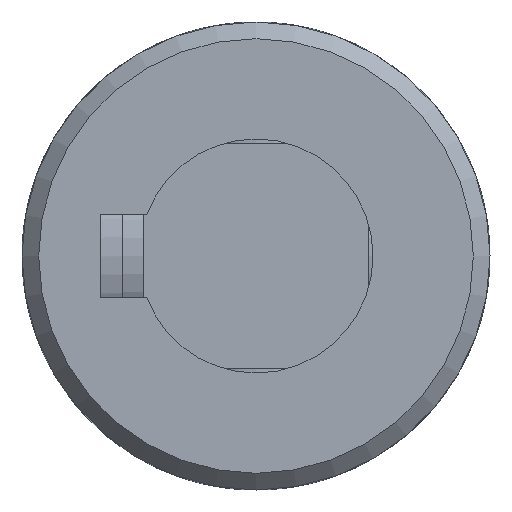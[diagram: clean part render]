
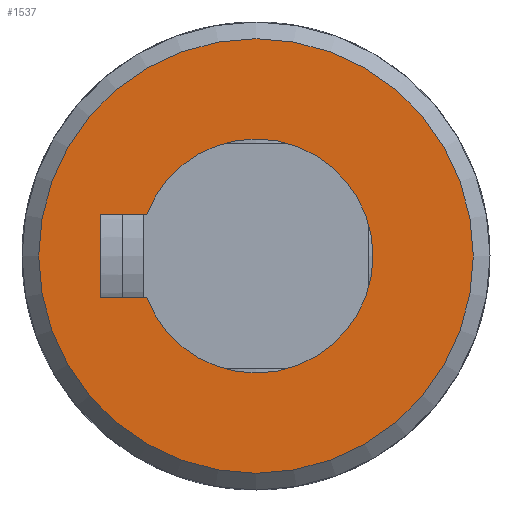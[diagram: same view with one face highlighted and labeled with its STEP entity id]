
A CAD part, front view. The second image highlights one B-rep face of the part: STEP entity #1537.
In plain terms, the highlighted planar face has unit normal (0, -1, 0).
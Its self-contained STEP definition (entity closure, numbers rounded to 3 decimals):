
#110=LINE('',#2955,#167);
#115=LINE('',#2972,#172);
#116=LINE('',#2985,#173);
#167=VECTOR('',#2019,2.762);
#172=VECTOR('',#2030,2.762);
#173=VECTOR('',#2033,5.);
#304=PLANE('',#1694);
#352=FACE_BOUND('',#565,.T.);
#432=FACE_OUTER_BOUND('',#564,.T.);
#564=EDGE_LOOP('',(#1340));
#565=EDGE_LOOP('',(#1341,#1342,#1343,#1344));
#645=CIRCLE('',#1682,7.);
#650=CIRCLE('',#1692,13.);
#772=VERTEX_POINT('',#2944);
#773=VERTEX_POINT('',#2946);
#775=VERTEX_POINT('',#2954);
#781=VERTEX_POINT('',#2970);
#783=VERTEX_POINT('',#2991);
#960=EDGE_CURVE('',#773,#772,#645,.T.);
#963=EDGE_CURVE('',#775,#773,#110,.T.);
#971=EDGE_CURVE('',#772,#781,#115,.T.);
#973=EDGE_CURVE('',#781,#775,#116,.T.);
#976=EDGE_CURVE('',#783,#783,#650,.T.);
#1340=ORIENTED_EDGE('',*,*,#976,.F.);
#1341=ORIENTED_EDGE('',*,*,#971,.T.);
#1342=ORIENTED_EDGE('',*,*,#973,.T.);
#1343=ORIENTED_EDGE('',*,*,#963,.T.);
#1344=ORIENTED_EDGE('',*,*,#960,.T.);
#1537=ADVANCED_FACE('',(#432,#352),#304,.F.);
#1682=AXIS2_PLACEMENT_3D('',#2947,#2014,#2015);
#1692=AXIS2_PLACEMENT_3D('',#2992,#2042,#2043);
#1694=AXIS2_PLACEMENT_3D('',#3168,#2050,#2051);
#2014=DIRECTION('center_axis',(0.,1.,0.));
#2015=DIRECTION('ref_axis',(-0.357,0.,0.934));
#2019=DIRECTION('',(0.,0.,1.));
#2030=DIRECTION('',(0.,0.,-1.));
#2033=DIRECTION('',(-1.,0.,0.));
#2042=DIRECTION('center_axis',(0.,1.,0.));
#2043=DIRECTION('ref_axis',(1.,0.,0.));
#2050=DIRECTION('center_axis',(0.,1.,0.));
#2051=DIRECTION('ref_axis',(0.,0.,1.));
#2944=CARTESIAN_POINT('',(2.5,-36.5,-6.538));
#2946=CARTESIAN_POINT('',(-2.5,-36.5,-6.538));
#2947=CARTESIAN_POINT('Origin',(0.,-36.5,0.));
#2954=CARTESIAN_POINT('',(-2.5,-36.5,-9.3));
#2955=CARTESIAN_POINT('',(-2.5,-36.5,-4.65));
#2970=CARTESIAN_POINT('',(2.5,-36.5,-9.3));
#2972=CARTESIAN_POINT('',(2.5,-36.5,-3.269));
#2985=CARTESIAN_POINT('',(1.25,-36.5,-9.3));
#2991=CARTESIAN_POINT('',(-13.,-36.5,0.));
#2992=CARTESIAN_POINT('Origin',(0.,-36.5,0.));
#3168=CARTESIAN_POINT('Origin',(0.,-36.5,0.));
